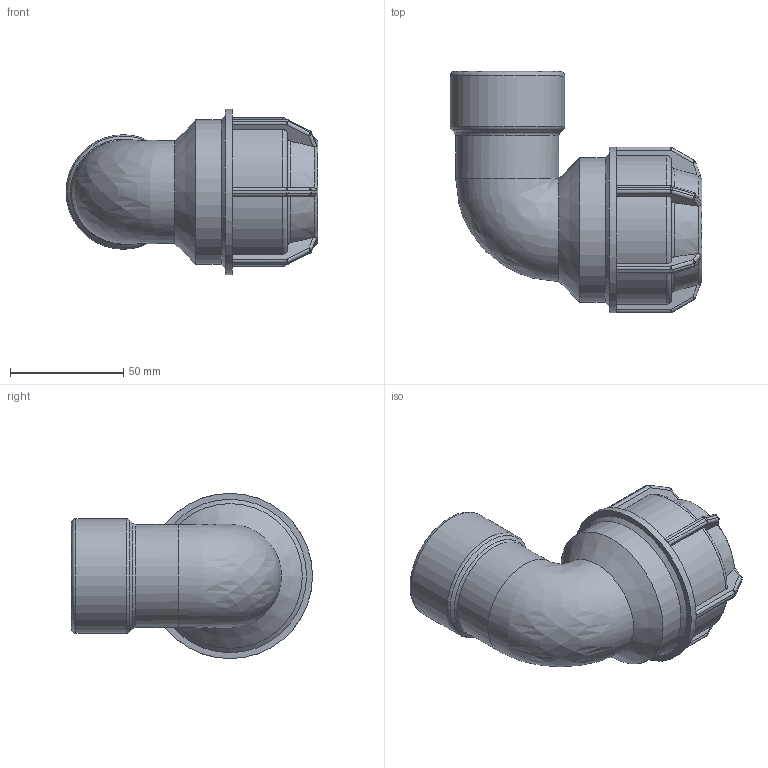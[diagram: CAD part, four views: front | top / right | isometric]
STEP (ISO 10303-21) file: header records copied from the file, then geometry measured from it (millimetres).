
FILE_DESCRIPTION(/* description */ ('L.14 90° ELBOW FEMALE ADAPTOR (SILVER) 40-1.1/4"'),/* implementation_level */ '2;1');
FILE_NAME(/* name */ 'C:\Dropbox\KIMPROJECTS-Inventor\99-16-3568-Processing\Silver+MF ISRAEL\141500\141500040013.ipt.stp',/* time_stamp */ '2018-04-09T13:04:54+03:00',/* author */ ('KIM'),/* organization */ (''),/* preprocessor_version */ 'ST-DEVELOPER v15.6',/* originating_system */ 'Autodesk Inventor 2015',/* authorisation */ '');
FILE_SCHEMA (('AUTOMOTIVE_DESIGN { 1 0 10303 214 3 1 1 }'));
Length unit declared in the file: millimetre
Products named in the file (1): 141500040013
Bounding box: 111.32 x 106.5 x 73 mm (x, y, z)
Volume: 185659.9 mm3; surface area: 48384.1 mm2
Topology: 1 solids, 1 shells, 214 faces, 503 edges, 288 vertices
Faces by surface type: plane 98, cylinder 63, sphere 24, torus 18, cone 10, bspline 1
Full cylindrical faces by diameter (mm): 31.162 x2, 38.952 x1, 40 x2, 45.574 x1, 50.638 x1, 64 x1, 73 x1
Entity records: 6136 total; most frequent: CARTESIAN_POINT 1559, DIRECTION 964, ORIENTED_EDGE 926, EDGE_CURVE 463, AXIS2_PLACEMENT_3D 392, VERTEX_POINT 276, EDGE_LOOP 237, FACE_OUTER_BOUND 212
